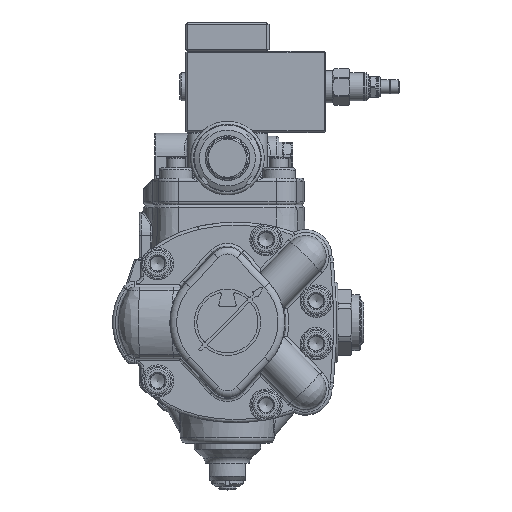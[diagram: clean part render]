
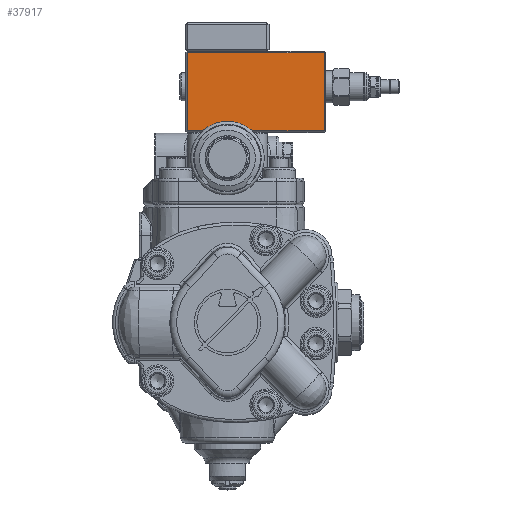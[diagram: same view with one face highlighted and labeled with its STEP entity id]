
A CAD part, top view. The second image highlights one B-rep face of the part: STEP entity #37917.
In plain terms, the highlighted planar face has unit normal (0, 0, 1).
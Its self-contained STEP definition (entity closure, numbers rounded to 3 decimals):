
#1273=PLANE('',#40417);
#2456=FACE_OUTER_BOUND('',#4706,.T.);
#4706=EDGE_LOOP('',(#24859,#24860,#24861,#24862));
#10113=LINE('',#55781,#12355);
#10115=LINE('',#55785,#12357);
#10118=LINE('',#55789,#12360);
#10124=LINE('',#55800,#12366);
#12355=VECTOR('',#45155,10.);
#12357=VECTOR('',#45161,10.);
#12360=VECTOR('',#45166,10.);
#12366=VECTOR('',#45182,10.);
#14753=VERTEX_POINT('',#55753);
#14754=VERTEX_POINT('',#55757);
#14759=VERTEX_POINT('',#55771);
#14761=VERTEX_POINT('',#55776);
#18537=EDGE_CURVE('',#14761,#14759,#10113,.T.);
#18539=EDGE_CURVE('',#14754,#14761,#10115,.T.);
#18542=EDGE_CURVE('',#14759,#14753,#10118,.T.);
#18548=EDGE_CURVE('',#14753,#14754,#10124,.T.);
#24859=ORIENTED_EDGE('',*,*,#18537,.F.);
#24860=ORIENTED_EDGE('',*,*,#18539,.F.);
#24861=ORIENTED_EDGE('',*,*,#18548,.F.);
#24862=ORIENTED_EDGE('',*,*,#18542,.F.);
#37917=ADVANCED_FACE('',(#2456),#1273,.T.);
#40417=AXIS2_PLACEMENT_3D('',#55814,#45199,#45200);
#45155=DIRECTION('',(1.,0.,0.));
#45161=DIRECTION('',(0.,1.,0.));
#45166=DIRECTION('',(0.,-1.,0.));
#45182=DIRECTION('',(-1.,0.,0.));
#45199=DIRECTION('center_axis',(0.,0.,
1.));
#45200=DIRECTION('ref_axis',(0.,1.,0.));
#55753=CARTESIAN_POINT('',(194.297,120.193,74.283));
#55757=CARTESIAN_POINT('',(101.297,120.193,74.283));
#55771=CARTESIAN_POINT('',(194.297,173.193,74.283));
#55776=CARTESIAN_POINT('',(101.297,173.193,74.283));
#55781=CARTESIAN_POINT('',(124.047,173.193,74.283));
#55785=CARTESIAN_POINT('',(101.297,174.193,74.283));
#55789=CARTESIAN_POINT('',(194.297,174.193,74.283));
#55800=CARTESIAN_POINT('',(124.047,120.193,74.283));
#55814=CARTESIAN_POINT('Origin',(100.297,174.193,74.283));
